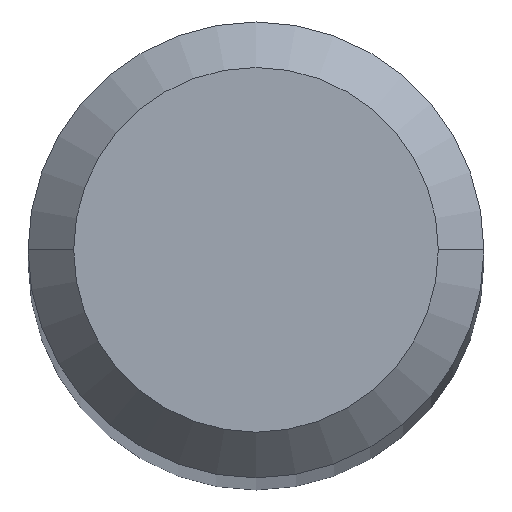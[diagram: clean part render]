
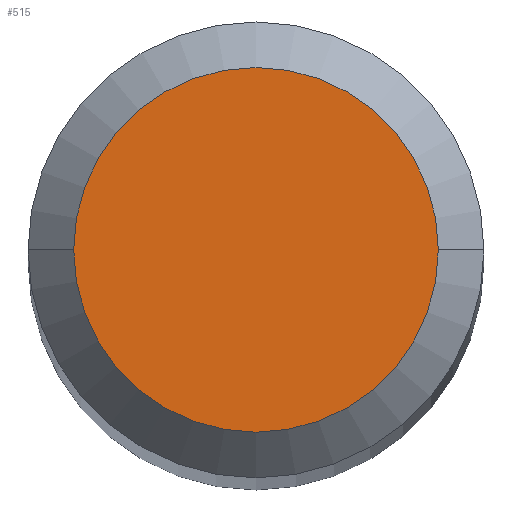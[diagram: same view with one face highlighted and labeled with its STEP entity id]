
A CAD part, top view. The second image highlights one B-rep face of the part: STEP entity #515.
In plain terms, the highlighted planar face has unit normal (0, 0, 1).
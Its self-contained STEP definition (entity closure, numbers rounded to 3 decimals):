
#19 = PLANE ( 'NONE',  #202 ) ;
#92 = ORIENTED_EDGE ( 'NONE', *, *, #456, .F. ) ;
#111 = DIRECTION ( 'NONE',  ( -1., 0., 0. ) ) ;
#137 = EDGE_CURVE ( 'NONE', #525, #564, #314, .T. ) ;
#152 = DIRECTION ( 'NONE',  ( 0., 0., 1. ) ) ;
#155 = CARTESIAN_POINT ( 'NONE',  ( 0., 0., 0. ) ) ;
#168 = CARTESIAN_POINT ( 'NONE',  ( -1.2, 0., 0. ) ) ;
#202 = AXIS2_PLACEMENT_3D ( 'NONE', #342, #152, #546 ) ;
#247 = EDGE_LOOP ( 'NONE', ( #92, #398 ) ) ;
#254 = DIRECTION ( 'NONE',  ( 0., 0., -1. ) ) ;
#314 = CIRCLE ( 'NONE', #409, 1.2 ) ;
#337 = CARTESIAN_POINT ( 'NONE',  ( 0., 0., 0. ) ) ;
#338 = CIRCLE ( 'NONE', #568, 1.2 ) ;
#342 = CARTESIAN_POINT ( 'NONE',  ( 0., 1.2, 0. ) ) ;
#350 = FACE_OUTER_BOUND ( 'NONE', #247, .T. ) ;
#398 = ORIENTED_EDGE ( 'NONE', *, *, #137, .F. ) ;
#409 = AXIS2_PLACEMENT_3D ( 'NONE', #155, #254, #602 ) ;
#456 = EDGE_CURVE ( 'NONE', #564, #525, #338, .T. ) ;
#492 = CARTESIAN_POINT ( 'NONE',  ( 1.2, 0., 0. ) ) ;
#515 = ADVANCED_FACE ( 'NONE', ( #350 ), #19, .T. ) ;
#525 = VERTEX_POINT ( 'NONE', #492 ) ;
#540 = DIRECTION ( 'NONE',  ( 0., 0., -1. ) ) ;
#546 = DIRECTION ( 'NONE',  ( 1., 0., 0. ) ) ;
#564 = VERTEX_POINT ( 'NONE', #168 ) ;
#568 = AXIS2_PLACEMENT_3D ( 'NONE', #337, #540, #111 ) ;
#602 = DIRECTION ( 'NONE',  ( -1., 0., 0. ) ) ;
